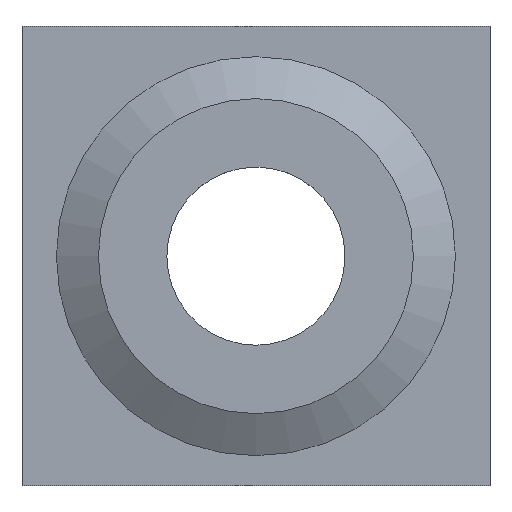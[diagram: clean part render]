
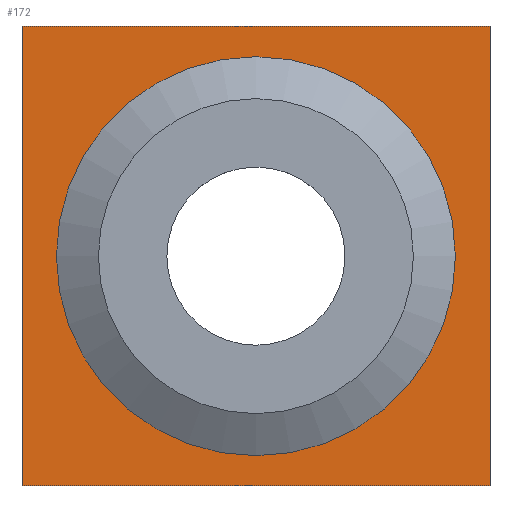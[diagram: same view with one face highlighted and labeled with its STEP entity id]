
A CAD part, top view. The second image highlights one B-rep face of the part: STEP entity #172.
In plain terms, the highlighted planar face has unit normal (0, 0, 1).
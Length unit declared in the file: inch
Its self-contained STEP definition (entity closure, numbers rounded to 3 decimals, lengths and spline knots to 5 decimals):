
#24=CARTESIAN_POINT('',(-0.33216,0.05054,-2.30716));
#25=VERTEX_POINT('',#24);
#26=CARTESIAN_POINT('',(-0.89193,0.05054,-2.30716));
#27=VERTEX_POINT('',#26);
#28=CARTESIAN_POINT('',(4.06492,0.05054,-2.30716));
#29=DIRECTION('',(-1.,0.,0.));
#30=VECTOR('',#29,1.);
#31=LINE('',#28,#30);
#32=EDGE_CURVE('',#25,#27,#31,.T.);
#115=CARTESIAN_POINT('',(-0.89193,0.6,-2.30716));
#116=VERTEX_POINT('',#115);
#117=CARTESIAN_POINT('',(-0.89193,7.60825,-2.30716));
#118=DIRECTION('',(0.,-1.,0.));
#119=VECTOR('',#118,1.);
#120=LINE('',#117,#119);
#121=EDGE_CURVE('',#116,#27,#120,.T.);
#138=CARTESIAN_POINT('',(-0.33216,0.6,-2.30716));
#139=VERTEX_POINT('',#138);
#140=CARTESIAN_POINT('',(-0.33216,0.162,-2.30716));
#141=DIRECTION('',(0.,1.,0.));
#142=VECTOR('',#141,0.25);
#143=LINE('',#140,#142);
#144=EDGE_CURVE('',#25,#139,#143,.T.);
#145=ORIENTED_EDGE('',*,*,#144,.T.);
#146=CARTESIAN_POINT('',(-0.52016,0.6,-2.30716));
#147=DIRECTION('',(-1.,0.,0.));
#148=VECTOR('',#147,2.149);
#149=LINE('',#146,#148);
#150=EDGE_CURVE('',#139,#116,#149,.T.);
#151=ORIENTED_EDGE('',*,*,#150,.T.);
#152=ORIENTED_EDGE('',*,*,#121,.T.);
#153=ORIENTED_EDGE('',*,*,#32,.F.);
#154=EDGE_LOOP('',(#145,#151,#152,#153));
#155=FACE_OUTER_BOUND('',#154,.T.);
#156=CARTESIAN_POINT('',(-0.61216,0.08637,-2.30716));
#157=VERTEX_POINT('',#156);
#158=CARTESIAN_POINT('',(-0.61216,0.325,-2.30716));
#159=DIRECTION('',(0.,0.,1.));
#160=DIRECTION('',(0.,-1.,0.));
#161=AXIS2_PLACEMENT_3D('',#158,#159,#160);
#162=CIRCLE('',#161,0.23863);
#163=EDGE_CURVE('',#157,#157,#162,.T.);
#164=ORIENTED_EDGE('',*,*,#163,.F.);
#165=EDGE_LOOP('',(#164));
#166=FACE_BOUND('',#165,.T.);
#167=CARTESIAN_POINT('',(-2.35716,0.,-2.30716));
#168=DIRECTION('',(0.,0.,1.));
#169=DIRECTION('',(1.,0.,0.));
#170=AXIS2_PLACEMENT_3D('',#167,#168,#169);
#171=PLANE('',#170);
#172=ADVANCED_FACE('',(#155,#166),#171,.T.);
